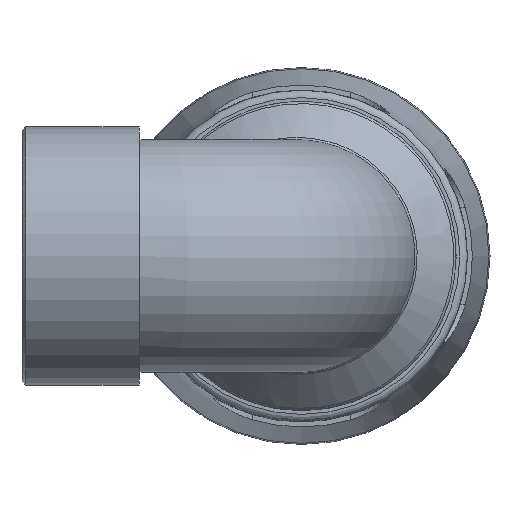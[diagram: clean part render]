
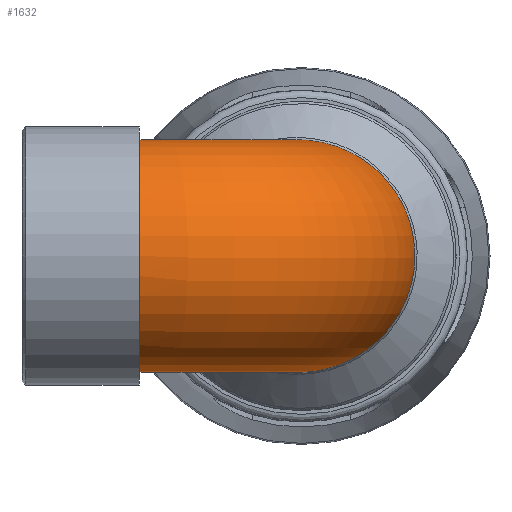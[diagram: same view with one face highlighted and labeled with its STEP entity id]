
A CAD part, left-side view. The second image highlights one B-rep face of the part: STEP entity #1632.
In plain terms, the highlighted toroidal (fillet/blend) face has major radius 36.4 mm and minor radius 26.234 mm.
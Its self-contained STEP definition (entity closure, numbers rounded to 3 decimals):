
#17=TOROIDAL_SURFACE('',#1782,36.4,26.234);
#186=B_SPLINE_CURVE_WITH_KNOTS('',3,(#2805,#2806,#2807,#2808,#2809,#2810,
#2811,#2812,#2813,#2814,#2815,#2816,#2817,#2818,#2819,#2820,#2821,#2822,
#2823,#2824),.UNSPECIFIED.,.T.,.F.,(4,1,1,1,1,1,1,1,1,1,1,1,1,1,1,1,1,4),
(-3.142,-2.917,-2.693,-2.244,
-1.795,-1.346,-1.047,-0.449,
-0.15,0.15,0.449,0.898,
1.346,1.795,2.244,2.693,2.917,
3.142),.UNSPECIFIED.);
#365=FACE_BOUND('',#518,.T.);
#395=FACE_OUTER_BOUND('',#517,.T.);
#517=EDGE_LOOP('',(#1186));
#518=EDGE_LOOP('',(#1187));
#664=CIRCLE('',#1777,26.234);
#757=VERTEX_POINT('',#2803);
#761=VERTEX_POINT('',#2835);
#921=EDGE_CURVE('',#757,#757,#186,.T.);
#925=EDGE_CURVE('',#761,#761,#664,.T.);
#1186=ORIENTED_EDGE('',*,*,#921,.F.);
#1187=ORIENTED_EDGE('',*,*,#925,.T.);
#1632=ADVANCED_FACE('',(#395,#365),#17,.T.);
#1777=AXIS2_PLACEMENT_3D('',#2836,#2030,#2031);
#1782=AXIS2_PLACEMENT_3D('',#2844,#2040,#2041);
#2030=DIRECTION('center_axis',(0.,-1.,0.));
#2031=DIRECTION('ref_axis',(-1.,0.,0.));
#2040=DIRECTION('center_axis',(0.,0.,1.));
#2041=DIRECTION('ref_axis',(1.,0.,0.));
#2803=CARTESIAN_POINT('',(27.579,31.347,0.));
#2805=CARTESIAN_POINT('Ctrl Pts',(27.58,31.348,0.));
#2806=CARTESIAN_POINT('Ctrl Pts',(27.58,31.348,2.016));
#2807=CARTESIAN_POINT('Ctrl Pts',(27.447,30.585,6.047));
#2808=CARTESIAN_POINT('Ctrl Pts',(27.047,26.736,13.388));
#2809=CARTESIAN_POINT('Ctrl Pts',(26.932,19.432,20.906));
#2810=CARTESIAN_POINT('Ctrl Pts',(27.035,8.186,26.254));
#2811=CARTESIAN_POINT('Ctrl Pts',(27.112,-2.866,26.574));
#2812=CARTESIAN_POINT('Ctrl Pts',(27.178,-14.443,22.503));
#2813=CARTESIAN_POINT('Ctrl Pts',(27.208,-22.343,14.474));
#2814=CARTESIAN_POINT('Ctrl Pts',(27.22,-25.658,4.079));
#2815=CARTESIAN_POINT('Ctrl Pts',(27.22,-25.663,-4.081));
#2816=CARTESIAN_POINT('Ctrl Pts',(27.21,-22.749,-13.162));
#2817=CARTESIAN_POINT('Ctrl Pts',(27.183,-15.641,-21.626));
#2818=CARTESIAN_POINT('Ctrl Pts',(27.122,-4.253,-26.626));
#2819=CARTESIAN_POINT('Ctrl Pts',(27.035,8.188,-26.249));
#2820=CARTESIAN_POINT('Ctrl Pts',(26.932,19.431,-20.909));
#2821=CARTESIAN_POINT('Ctrl Pts',(27.047,26.736,-13.387));
#2822=CARTESIAN_POINT('Ctrl Pts',(27.447,30.585,-6.048));
#2823=CARTESIAN_POINT('Ctrl Pts',(27.58,31.348,-2.016));
#2824=CARTESIAN_POINT('Ctrl Pts',(27.58,31.348,0.));
#2835=CARTESIAN_POINT('',(26.234,36.4,0.));
#2836=CARTESIAN_POINT('Origin',(0.,36.4,0.));
#2844=CARTESIAN_POINT('Origin',(36.4,36.4,0.));
